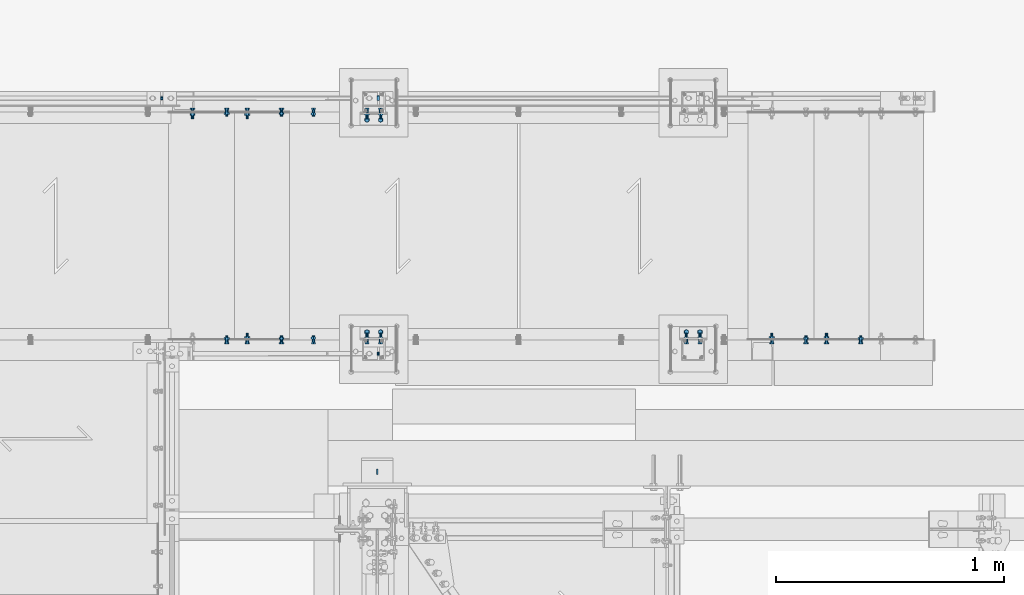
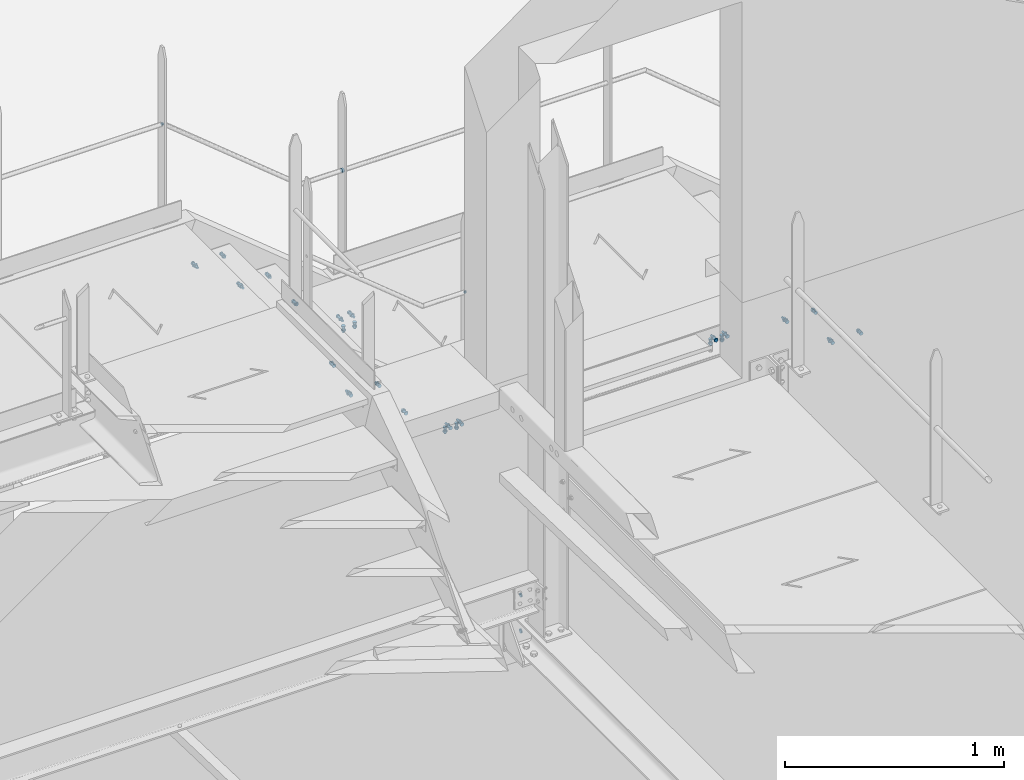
# One storey, part 303 of 362: 24 mechanical fasteners.
"""IFC2X3 building model written with IfcOpenShell, lengths in millimetres."""

from ifc_helpers import new_model, si_unit, frame, frame_2d, origin_with_axes, origin_2d_with_axis, place, context, subcontext, project, spatial, polyline, circle_curve, parameter, trimmed, segment, composite_curve, circle, outline, extrude, source, transform, mapped, material, type_object, element, save


model = new_model("IFC2X3")

# Units and contexts
model_context = context("Model", 3, precision=1e-05, world=origin_with_axes())
body_context = subcontext(model_context, "Body", "Model", "MODEL_VIEW")
ifc_project = project(units=[si_unit("LENGTHUNIT", "METRE", prefix="MILLI"), si_unit("AREAUNIT", "SQUARE_METRE"), si_unit("VOLUMEUNIT", "CUBIC_METRE"), si_unit("MASSUNIT", "GRAM", prefix="KILO"), si_unit("TIMEUNIT", "SECOND"), si_unit("PLANEANGLEUNIT", "RADIAN"), si_unit("SOLIDANGLEUNIT", "STERADIAN"), si_unit("THERMODYNAMICTEMPERATUREUNIT", "DEGREE_CELSIUS"), si_unit("LUMINOUSINTENSITYUNIT", "LUMEN")], contexts=[model_context])

# Site, building, storey
site_placement = place(None, origin_with_axes())
site = spatial("IfcSite", under=ifc_project, at=site_placement, Name="Undefined", CompositionType="ELEMENT")
building_placement = place(site_placement, origin_with_axes())
building = spatial("IfcBuilding", under=site, at=building_placement, Name="Undefined", CompositionType="ELEMENT")
storey_placement = place(building_placement, origin_with_axes())
storey = spatial("IfcBuildingStorey", under=building, at=storey_placement, Name="Undefined", CompositionType="ELEMENT", Elevation=0.0)

# Mechanical fasteners
ifc_material_1 = material(Name="6.8")
mechanical_fastener_type = type_object("IfcMechanicalFastenerType", Name="Bolt assembly")
shared_shape_1 = source(origin_with_axes(), body_context, "Body", "SweptSolid", [
    extrude(circle(Radius=11.0, at=origin_2d_with_axis()), frame((0.0, -5.00000000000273, 0.0), z_axis=(0.0, 1.0, 0.0), x_axis=(1.0, 0.0, 0.0)), (0.0, 0.0, 1.0), 10.1),
])
mechanical_fastener_1_placement = place(storey_placement, frame((23475.0061849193, 17089.9938659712, 8653.7999407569), z_axis=(0.0, 0.0, -1.0), x_axis=(0.0, -1.0, 0.0)))
element("IfcMechanicalFastener", 1, at=mechanical_fastener_1_placement, inside=storey, type_object=mechanical_fastener_type, material=ifc_material_1, Name="Bolt assembly", NominalDiameter=20.0, NominalLength=10.0, context=body_context, shape_type="MappedRepresentation", body=[
    mapped(shared_shape_1, transform((0.0, 0.0, 0.0))),
])
shared_shape_2 = source(origin_with_axes(), body_context, "Body", "SweptSolid", [
    extrude(circle(Radius=7.0, at=origin_2d_with_axis()), frame((0.0, -5.00000000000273, 0.0), z_axis=(0.0, 1.0, 0.0), x_axis=(1.0, 0.0, 0.0)), (0.0, 0.0, 1.0), 10.1),
])
for number, where, z_axis, x_axis, name in (
    (2, (23475.0061849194, 15970.0000882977, 8653.7999407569), (0.0, 0.0, 1.0), (0.0, 1.0, 0.0), "Bolt assembly"),
    (3, (22525.0061849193, 17089.9938659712, 9243.80000001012), (0.0, 0.0, -1.0), (0.0, -1.0, 0.0), "Bolt assembly"),
):
    element("IfcMechanicalFastener", number, at=place(storey_placement, frame(where, z_axis=z_axis, x_axis=x_axis)), inside=storey, type_object=mechanical_fastener_type, material=ifc_material_1, Name=name, NominalDiameter=12.0, NominalLength=10.0, context=body_context, shape_type="MappedRepresentation", body=[
        mapped(shared_shape_2, transform((0.0, 0.0, 0.0))),
    ])
ifc_material_2 = material(Name="8.8-SB-GALVA")
shared_shape_3 = source(origin_with_axes(), body_context, "Body", "SweptSolid", [
    extrude(circle(Radius=7.0, at=origin_2d_with_axis()), frame((0.0, -0.10007666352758, 0.0), z_axis=(0.0, 1.0, 0.0), x_axis=(1.0, 0.0, 0.0)), (0.0, 0.0, 1.0), 8.1),
    extrude(circle(Radius=7.0, at=origin_2d_with_axis()), frame((0.0, -5.8999542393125, 0.0), z_axis=(0.0, 1.0, 0.0), x_axis=(1.0, 0.0, 0.0)), (0.0, 0.0, 1.0), 6.0),
    extrude(outline(polyline([(10.39230484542, 0.0), (5.19615242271, 9.00000000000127), (-5.19615242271, 9.00000000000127), (-10.39230484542, 0.0), (-5.19615242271, -9.00000000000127), (5.19615242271, -9.00000000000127), (10.39230484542, 0.0)])), frame((0.0, -13.9199542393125, 0.0), z_axis=(0.0, 1.0, 0.0), x_axis=(1.0, 0.0, 0.0)), (0.0, 0.0, 1.0), 7.92),
    extrude(circle(Radius=6.0, at=origin_2d_with_axis()), frame((0.0, -5.9999542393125, 0.0), z_axis=(0.0, 1.0, 0.0), x_axis=(1.0, 0.0, 0.0)), (0.0, 0.0, 1.0), 30.0),
    extrude(outline(polyline([(11.5008173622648, 0.0), (5.7504086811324, 9.96000000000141), (-5.7504086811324, 9.96000000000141), (-11.5008173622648, 0.0), (-5.7504086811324, -9.96000000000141), (5.7504086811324, -9.96000000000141), (11.5008173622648, 0.0)])), frame((0.0, 7.99992914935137, 0.0), z_axis=(0.0, 1.0, 0.0), x_axis=(1.0, 0.0, 0.0)), (0.0, 0.0, 1.0), 7.92),
])
for number, where, z_axis, x_axis, name in (
    (4, (23455.0, 16065.0001225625, 7849.9999407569), (1.0, 0.0, 0.0), (0.0, -1.0, 0.0), "Bolt assembly"),
    (5, (24855.0, 16065.0001225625, 7849.9999407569), (1.0, 0.0, 0.0), (0.0, -1.0, 0.0), "Bolt assembly"),
):
    element("IfcMechanicalFastener", number, at=place(storey_placement, frame(where, z_axis=z_axis, x_axis=x_axis)), inside=storey, type_object=mechanical_fastener_type, material=ifc_material_2, Name=name, NominalDiameter=12.0, NominalLength=30.0, context=body_context, shape_type="MappedRepresentation", body=[
        mapped(shared_shape_3, transform((0.0, 0.0, 30.0))),
        mapped(shared_shape_3, transform((0.0, 0.0, -30.0))),
    ])
mechanical_fastener_2_placement = place(storey_placement, frame((23455.0, 16994.9998774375, 7849.9999407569), z_axis=(-1.0, 0.0, 0.0), x_axis=(0.0, 1.0, 0.0)))
element("IfcMechanicalFastener", 6, at=mechanical_fastener_2_placement, inside=storey, type_object=mechanical_fastener_type, material=ifc_material_2, Name="Bolt assembly", NominalDiameter=12.0, NominalLength=30.0, context=body_context, shape_type="MappedRepresentation", body=[
    mapped(shared_shape_3, transform((0.0, 0.0, -30.0))),
    mapped(shared_shape_3, transform((0.0, 0.0, 30.0))),
])
shared_shape_4 = source(origin_with_axes(), body_context, "Body", "SweptSolid", [
    extrude(circle(Radius=7.0, at=origin_2d_with_axis()), frame((0.0, -9.90024512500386, 0.0), z_axis=(0.0, 1.0, 0.0), x_axis=(1.0, 0.0, 0.0)), (0.0, 0.0, 1.0), 10.0),
    extrude(circle(Radius=7.0, at=origin_2d_with_axis()), frame((0.0, -0.100011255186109, 0.0), z_axis=(0.0, 1.0, 0.0), x_axis=(1.0, 0.0, 0.0)), (0.0, 0.0, 1.0), 6.1),
    extrude(outline(polyline([(10.39230484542, 0.0), (5.19615242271, 9.00000000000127), (-5.19615242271, 9.00000000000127), (-10.39230484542, 0.0), (-5.19615242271, -9.00000000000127), (5.19615242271, -9.00000000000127), (10.39230484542, 0.0)])), frame((0.0, -17.9202451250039, 0.0), z_axis=(0.0, 1.0, 0.0), x_axis=(1.0, 0.0, 0.0)), (0.0, 0.0, 1.0), 7.92),
    extrude(circle(Radius=6.0, at=origin_2d_with_axis()), frame((0.0, -10.0002451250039, 0.0), z_axis=(0.0, 1.0, 0.0), x_axis=(1.0, 0.0, 0.0)), (0.0, 0.0, 1.0), 40.0),
    extrude(outline(polyline([(11.5008173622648, 0.0), (5.7504086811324, 9.96000000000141), (-5.7504086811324, 9.96000000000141), (-11.5008173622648, 0.0), (-5.7504086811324, -9.96000000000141), (5.7504086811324, -9.96000000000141), (11.5008173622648, 0.0)])), frame((0.0, 6.0, 0.0), z_axis=(0.0, 1.0, 0.0), x_axis=(1.0, 0.0, 0.0)), (0.0, 0.0, 1.0), 7.92),
])
for number, where, z_axis, x_axis, name in (
    (7, (23455.0, 16030.0001225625, 7884.9999407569), (1.0, 0.0, 0.0), (0.0, 0.0, -1.0), "Bolt assembly"),
    (8, (24855.0, 16030.0001225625, 7884.9999407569), (1.0, 0.0, 0.0), (0.0, 0.0, -1.0), "Bolt assembly"),
):
    element("IfcMechanicalFastener", number, at=place(storey_placement, frame(where, z_axis=z_axis, x_axis=x_axis)), inside=storey, type_object=mechanical_fastener_type, material=ifc_material_2, Name=name, NominalDiameter=12.0, NominalLength=40.0, context=body_context, shape_type="MappedRepresentation", body=[
        mapped(shared_shape_4, transform((0.0, 0.0, 30.0))),
        mapped(shared_shape_4, transform((0.0, 0.0, -30.0))),
    ])
shared_shape_5 = source(origin_with_axes(), body_context, "Body", "SweptSolid", [
    extrude(circle(Radius=7.0, at=origin_2d_with_axis()), frame((0.0, -9.8963627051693, 0.0), z_axis=(0.0, 1.0, 0.0), x_axis=(1.0, 0.0, 0.0)), (0.0, 0.0, 1.0), 10.0),
    extrude(circle(Radius=7.0, at=origin_2d_with_axis()), frame((0.0, -0.100011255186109, 0.0), z_axis=(0.0, 1.0, 0.0), x_axis=(1.0, 0.0, 0.0)), (0.0, 0.0, 1.0), 3.1),
    extrude(outline(polyline([(10.39230484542, 0.0), (5.19615242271, 9.00000000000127), (-5.19615242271, 9.00000000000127), (-10.39230484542, 0.0), (-5.19615242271, -9.00000000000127), (5.19615242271, -9.00000000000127), (10.39230484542, 0.0)])), frame((0.0, -17.9163627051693, 0.0), z_axis=(0.0, 1.0, 0.0), x_axis=(1.0, 0.0, 0.0)), (0.0, 0.0, 1.0), 7.92),
    extrude(circle(Radius=6.0, at=origin_2d_with_axis()), frame((0.0, -9.9963627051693, 0.0), z_axis=(0.0, 1.0, 0.0), x_axis=(1.0, 0.0, 0.0)), (0.0, 0.0, 1.0), 30.0),
    extrude(outline(polyline([(11.5008173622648, 0.0), (5.7504086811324, 9.96000000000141), (-5.7504086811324, 9.96000000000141), (-11.5008173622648, 0.0), (-5.7504086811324, -9.96000000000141), (5.7504086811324, -9.96000000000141), (11.5008173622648, 0.0)])), frame((0.0, 3.00000067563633, 0.0), z_axis=(0.0, 1.0, 0.0), x_axis=(1.0, 0.0, 0.0)), (0.0, 0.0, 1.0), 7.92),
])
mechanical_fastener_3_placement = place(storey_placement, frame((22809.9999902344, 17030.0001225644, 8448.3299407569), z_axis=(0.0, 0.0, 1.0), x_axis=(-1.0, 0.0, 0.0)))
element("IfcMechanicalFastener", 9, at=mechanical_fastener_3_placement, inside=storey, type_object=mechanical_fastener_type, material=ifc_material_2, Name="Bolt assembly", NominalDiameter=12.0, NominalLength=30.0, context=body_context, shape_type="MappedRepresentation", body=[
    mapped(shared_shape_5, transform((0.0, 0.0, 0.0))),
])
shared_shape_6 = source(origin_with_axes(), body_context, "Body", "SweptSolid", [
    extrude(circle(Radius=7.0, at=origin_2d_with_axis()), frame((0.0, -9.9, 0.0), z_axis=(0.0, 1.0, 0.0), x_axis=(1.0, 0.0, 0.0)), (0.0, 0.0, 1.0), 10.0),
    extrude(circle(Radius=7.0, at=origin_2d_with_axis()), frame((0.0, -0.100011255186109, 0.0), z_axis=(0.0, 1.0, 0.0), x_axis=(1.0, 0.0, 0.0)), (0.0, 0.0, 1.0), 3.1),
    extrude(outline(polyline([(10.39230484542, 0.0), (5.19615242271, 9.00000000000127), (-5.19615242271, 9.00000000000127), (-10.39230484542, 0.0), (-5.19615242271, -9.00000000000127), (5.19615242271, -9.00000000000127), (10.39230484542, 0.0)])), frame((0.0, -17.92, 0.0), z_axis=(0.0, 1.0, 0.0), x_axis=(1.0, 0.0, 0.0)), (0.0, 0.0, 1.0), 7.92),
    extrude(circle(Radius=6.0, at=origin_2d_with_axis()), frame((0.0, -10.0000010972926, 0.0), z_axis=(0.0, 1.0, 0.0), x_axis=(1.0, 0.0, 0.0)), (0.0, 0.0, 1.0), 30.0),
    extrude(outline(polyline([(11.5008173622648, 0.0), (5.7504086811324, 9.96000000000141), (-5.7504086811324, 9.96000000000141), (-11.5008173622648, 0.0), (-5.7504086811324, -9.96000000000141), (5.7504086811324, -9.96000000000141), (11.5008173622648, 0.0)])), frame((0.0, 3.00000067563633, 0.0), z_axis=(0.0, 1.0, 0.0), x_axis=(1.0, 0.0, 0.0)), (0.0, 0.0, 1.0), 7.92),
])
for number, where, z_axis, x_axis, name in (
    (10, (22809.9999902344, 16029.9998774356, 8448.3299407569), (0.0, 0.0, -1.0), (-1.0, 0.0, 0.0), "Bolt assembly"),
    (11, (23049.9999902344, 16029.9998774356, 8251.6699407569), (0.0, 0.0, -1.0), (-1.0, 0.0, 0.0), "Bolt assembly"),
    (12, (25349.9999902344, 16029.9998774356, 7854.9999407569), (0.0, 0.0, -1.0), (-1.0, 0.0, 0.0), "Bolt assembly"),
    (13, (25589.9999902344, 16029.9998774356, 7655.0), (0.0, 0.0, -1.0), (-1.0, 0.0, 0.0), "Bolt assembly"),
):
    element("IfcMechanicalFastener", number, at=place(storey_placement, frame(where, z_axis=z_axis, x_axis=x_axis)), inside=storey, type_object=mechanical_fastener_type, material=ifc_material_2, Name=name, NominalDiameter=12.0, NominalLength=30.0, context=body_context, shape_type="MappedRepresentation", body=[
        mapped(shared_shape_6, transform((0.0, 0.0, 0.0))),
    ])
shared_shape_7 = source(origin_with_axes(), body_context, "Body", "SweptSolid", [
    extrude(circle(Radius=7.0, at=origin_2d_with_axis()), frame((0.0, -9.89685977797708, 0.0), z_axis=(0.0, 1.0, 0.0), x_axis=(1.0, 0.0, 0.0)), (0.0, 0.0, 1.0), 10.0),
    extrude(circle(Radius=7.0, at=origin_2d_with_axis()), frame((0.0, -0.100011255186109, 0.0), z_axis=(0.0, 1.0, 0.0), x_axis=(1.0, 0.0, 0.0)), (0.0, 0.0, 1.0), 3.1),
    extrude(outline(polyline([(10.39230484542, 0.0), (5.19615242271, 9.00000000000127), (-5.19615242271, 9.00000000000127), (-10.39230484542, 0.0), (-5.19615242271, -9.00000000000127), (5.19615242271, -9.00000000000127), (10.39230484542, 0.0)])), frame((0.0, -17.9168597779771, 0.0), z_axis=(0.0, 1.0, 0.0), x_axis=(1.0, 0.0, 0.0)), (0.0, 0.0, 1.0), 7.92),
    extrude(circle(Radius=6.0, at=origin_2d_with_axis()), frame((0.0, -9.99685977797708, 0.0), z_axis=(0.0, 1.0, 0.0), x_axis=(1.0, 0.0, 0.0)), (0.0, 0.0, 1.0), 30.0),
    extrude(outline(polyline([(11.5008173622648, 0.0), (5.7504086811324, 9.96000000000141), (-5.7504086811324, 9.96000000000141), (-11.5008173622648, 0.0), (-5.7504086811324, -9.96000000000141), (5.7504086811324, -9.96000000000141), (11.5008173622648, 0.0)])), frame((0.0, 3.00000067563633, 0.0), z_axis=(0.0, 1.0, 0.0), x_axis=(1.0, 0.0, 0.0)), (0.0, 0.0, 1.0), 7.92),
])
mechanical_fastener_4_placement = place(storey_placement, frame((23049.9999902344, 17030.0001225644, 8251.6699407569), z_axis=(0.0, 0.0, 1.0), x_axis=(-1.0, 0.0, 0.0)))
element("IfcMechanicalFastener", 14, at=mechanical_fastener_4_placement, inside=storey, type_object=mechanical_fastener_type, material=ifc_material_2, Name="Bolt assembly", NominalDiameter=12.0, NominalLength=30.0, context=body_context, shape_type="MappedRepresentation", body=[
    mapped(shared_shape_7, transform((0.0, 0.0, 0.0))),
])
shared_shape_8 = source(origin_with_axes(), body_context, "Body", "SweptSolid", [
    extrude(circle(Radius=7.0, at=origin_2d_with_axis()), frame((0.0, -9.89792082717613, 0.0), z_axis=(0.0, 1.0, 0.0), x_axis=(1.0, 0.0, 0.0)), (0.0, 0.0, 1.0), 10.0),
    extrude(circle(Radius=7.0, at=origin_2d_with_axis()), frame((0.0, -0.100011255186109, 0.0), z_axis=(0.0, 1.0, 0.0), x_axis=(1.0, 0.0, 0.0)), (0.0, 0.0, 1.0), 6.1),
    extrude(outline(polyline([(10.39230484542, 0.0), (5.19615242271, 9.00000000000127), (-5.19615242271, 9.00000000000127), (-10.39230484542, 0.0), (-5.19615242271, -9.00000000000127), (5.19615242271, -9.00000000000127), (10.39230484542, 0.0)])), frame((0.0, -17.9179208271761, 0.0), z_axis=(0.0, 1.0, 0.0), x_axis=(1.0, 0.0, 0.0)), (0.0, 0.0, 1.0), 7.92),
    extrude(circle(Radius=6.0, at=origin_2d_with_axis()), frame((0.0, -9.99792082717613, 0.0), z_axis=(0.0, 1.0, 0.0), x_axis=(1.0, 0.0, 0.0)), (0.0, 0.0, 1.0), 40.0),
    extrude(outline(polyline([(11.5008173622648, 0.0), (5.7504086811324, 9.96000000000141), (-5.7504086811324, 9.96000000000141), (-11.5008173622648, 0.0), (-5.7504086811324, -9.96000000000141), (5.7504086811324, -9.96000000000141), (11.5008173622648, 0.0)])), frame((0.0, 6.0, 0.0), z_axis=(0.0, 1.0, 0.0), x_axis=(1.0, 0.0, 0.0)), (0.0, 0.0, 1.0), 7.92),
])
mechanical_fastener_5_placement = place(storey_placement, frame((23455.0, 17029.9998774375, 7884.9999407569), z_axis=(-1.0, 0.0, 0.0), x_axis=(0.0, 0.0, -1.0)))
element("IfcMechanicalFastener", 15, at=mechanical_fastener_5_placement, inside=storey, type_object=mechanical_fastener_type, material=ifc_material_2, Name="Bolt assembly", NominalDiameter=12.0, NominalLength=40.0, context=body_context, shape_type="MappedRepresentation", body=[
    mapped(shared_shape_8, transform((0.0, 0.0, -30.0))),
    mapped(shared_shape_8, transform((0.0, 0.0, 30.0))),
])
shared_shape_9 = source(origin_with_axes(), body_context, "Body", "SweptSolid", [
    extrude(circle(Radius=7.0, at=origin_2d_with_axis()), frame((0.0, -9.89714953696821, 0.0), z_axis=(0.0, 1.0, 0.0), x_axis=(1.0, 0.0, 0.0)), (0.0, 0.0, 1.0), 10.0),
    extrude(circle(Radius=7.0, at=origin_2d_with_axis()), frame((0.0, -0.100011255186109, 0.0), z_axis=(0.0, 1.0, 0.0), x_axis=(1.0, 0.0, 0.0)), (0.0, 0.0, 1.0), 5.1),
    extrude(outline(polyline([(10.39230484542, 0.0), (5.19615242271, 9.00000000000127), (-5.19615242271, 9.00000000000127), (-10.39230484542, 0.0), (-5.19615242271, -9.00000000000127), (5.19615242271, -9.00000000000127), (10.39230484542, 0.0)])), frame((0.0, -17.9171495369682, 0.0), z_axis=(0.0, 1.0, 0.0), x_axis=(1.0, 0.0, 0.0)), (0.0, 0.0, 1.0), 7.92),
    extrude(circle(Radius=6.0, at=origin_2d_with_axis()), frame((0.0, -9.99714953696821, 0.0), z_axis=(0.0, 1.0, 0.0), x_axis=(1.0, 0.0, 0.0)), (0.0, 0.0, 1.0), 30.0),
    extrude(outline(polyline([(11.5008173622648, 0.0), (5.7504086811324, 9.96000000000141), (-5.7504086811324, 9.96000000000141), (-11.5008173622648, 0.0), (-5.7504086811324, -9.96000000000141), (5.7504086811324, -9.96000000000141), (11.5008173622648, 0.0)])), frame((0.0, 5.0, 0.0), z_axis=(0.0, 1.0, 0.0), x_axis=(1.0, 0.0, 0.0)), (0.0, 0.0, 1.0), 7.92),
])
mechanical_fastener_6_placement = place(storey_placement, frame((23189.9999902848, 17030.0001227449, 8049.9999407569), z_axis=(1.0, 0.0, 0.0), x_axis=(0.0, 0.0, 1.0)))
element("IfcMechanicalFastener", 16, at=mechanical_fastener_6_placement, inside=storey, type_object=mechanical_fastener_type, material=ifc_material_2, Name="Bolt assembly", NominalDiameter=12.0, NominalLength=30.0, context=body_context, shape_type="MappedRepresentation", body=[
    mapped(shared_shape_9, transform((0.0, 0.0, 0.0))),
])
shared_shape_10 = source(origin_with_axes(), body_context, "Body", "SweptSolid", [
    extrude(circle(Radius=7.0, at=origin_2d_with_axis()), frame((0.0, -9.9, 0.0), z_axis=(0.0, 1.0, 0.0), x_axis=(1.0, 0.0, 0.0)), (0.0, 0.0, 1.0), 10.0),
    extrude(circle(Radius=7.0, at=origin_2d_with_axis()), frame((0.0, -0.100011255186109, 0.0), z_axis=(0.0, 1.0, 0.0), x_axis=(1.0, 0.0, 0.0)), (0.0, 0.0, 1.0), 5.1),
    extrude(outline(polyline([(10.39230484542, 0.0), (5.19615242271, 9.00000000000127), (-5.19615242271, 9.00000000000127), (-10.39230484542, 0.0), (-5.19615242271, -9.00000000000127), (5.19615242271, -9.00000000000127), (10.39230484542, 0.0)])), frame((0.0, -17.92, 0.0), z_axis=(0.0, 1.0, 0.0), x_axis=(1.0, 0.0, 0.0)), (0.0, 0.0, 1.0), 7.92),
    extrude(circle(Radius=6.0, at=origin_2d_with_axis()), frame((0.0, -10.0000010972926, 0.0), z_axis=(0.0, 1.0, 0.0), x_axis=(1.0, 0.0, 0.0)), (0.0, 0.0, 1.0), 30.0),
    extrude(outline(polyline([(11.5008173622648, 0.0), (5.7504086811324, 9.96000000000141), (-5.7504086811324, 9.96000000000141), (-11.5008173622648, 0.0), (-5.7504086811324, -9.96000000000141), (5.7504086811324, -9.96000000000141), (11.5008173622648, 0.0)])), frame((0.0, 5.0, 0.0), z_axis=(0.0, 1.0, 0.0), x_axis=(1.0, 0.0, 0.0)), (0.0, 0.0, 1.0), 7.92),
])
mechanical_fastener_7_placement = place(storey_placement, frame((23189.9999902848, 16029.9998772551, 8049.9999407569), z_axis=(-1.0, 0.0, 0.0), x_axis=(0.0, 0.0, 1.0)))
element("IfcMechanicalFastener", 17, at=mechanical_fastener_7_placement, inside=storey, type_object=mechanical_fastener_type, material=ifc_material_2, Name="Bolt assembly", NominalDiameter=12.0, NominalLength=30.0, context=body_context, shape_type="MappedRepresentation", body=[
    mapped(shared_shape_10, transform((0.0, 0.0, 0.0))),
])
shared_shape_11 = source(origin_with_axes(), body_context, "Body", "SweptSolid", [
    extrude(circle(Radius=7.0, at=origin_2d_with_axis()), frame((0.0, -9.89603460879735, 0.0), z_axis=(0.0, 1.0, 0.0), x_axis=(1.0, 0.0, 0.0)), (0.0, 0.0, 1.0), 10.0),
    extrude(outline(composite_curve([segment(polyline([(-7.0, 7.0), (7.0, 7.0)]), True, "CONTINUOUS"), segment(trimmed(circle_curve(frame_2d((7.0, 0.0), x_axis=(0.0, 1.0)), 7.0), [parameter(0.0)], [parameter(3.14159265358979)], False, "PARAMETER"), True, "CONTINUOUS"), segment(polyline([(7.0, -7.0), (-7.0, -7.0)]), True, "CONTINUOUS"), segment(trimmed(circle_curve(frame_2d((-7.0, 0.0), x_axis=(0.0, -1.0)), 7.0), [parameter(0.0)], [parameter(3.14159265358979)], False, "PARAMETER"), True, "DISCONTINUOUS")], self_intersect=False)), frame((0.0, -0.100011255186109, 0.0), z_axis=(0.0, 1.0, 0.0), x_axis=(1.0, 0.0, 0.0)), (0.0, 0.0, 1.0), 3.1),
    extrude(outline(polyline([(10.39230484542, 0.0), (5.19615242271, 9.00000000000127), (-5.19615242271, 9.00000000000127), (-10.39230484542, 0.0), (-5.19615242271, -9.00000000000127), (5.19615242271, -9.00000000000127), (10.39230484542, 0.0)])), frame((0.0, -17.9160346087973, 0.0), z_axis=(0.0, 1.0, 0.0), x_axis=(1.0, 0.0, 0.0)), (0.0, 0.0, 1.0), 7.92),
    extrude(circle(Radius=6.0, at=origin_2d_with_axis()), frame((0.0, -9.99603460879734, 0.0), z_axis=(0.0, 1.0, 0.0), x_axis=(1.0, 0.0, 0.0)), (0.0, 0.0, 1.0), 40.0),
    extrude(circle(Radius=10.8, at=origin_2d_with_axis()), frame((0.0, 3.00000067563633, 0.0), z_axis=(0.0, 1.0, 0.0), x_axis=(1.0, 0.0, 0.0)), (0.0, 0.0, 1.0), 3.96),
    extrude(outline(polyline([(11.5008173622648, 0.0), (5.7504086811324, 9.96000000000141), (-5.7504086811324, 9.96000000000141), (-11.5008173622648, 0.0), (-5.7504086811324, -9.96000000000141), (5.7504086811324, -9.96000000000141), (11.5008173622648, 0.0)])), frame((0.0, 6.96, 0.0), z_axis=(0.0, 1.0, 0.0), x_axis=(1.0, 0.0, 0.0)), (0.0, 0.0, 1.0), 7.92),
])
mechanical_fastener_8_placement = place(storey_placement, frame((22659.9999902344, 17030.0001225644, 8448.3299407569), z_axis=(0.0, 0.0, 1.0), x_axis=(-1.0, 0.0, 0.0)))
element("IfcMechanicalFastener", 18, at=mechanical_fastener_8_placement, inside=storey, type_object=mechanical_fastener_type, material=ifc_material_2, Name="Bolt assembly", NominalDiameter=12.0, NominalLength=40.0, context=body_context, shape_type="MappedRepresentation", body=[
    mapped(shared_shape_11, transform((0.0, 0.0, 0.0))),
])
shared_shape_12 = source(origin_with_axes(), body_context, "Body", "SweptSolid", [
    extrude(circle(Radius=7.0, at=origin_2d_with_axis()), frame((0.0, -9.896549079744, 0.0), z_axis=(0.0, 1.0, 0.0), x_axis=(1.0, 0.0, 0.0)), (0.0, 0.0, 1.0), 10.0),
    extrude(outline(composite_curve([segment(polyline([(-7.0, 7.0), (7.0, 7.0)]), True, "CONTINUOUS"), segment(trimmed(circle_curve(frame_2d((7.0, 0.0), x_axis=(0.0, 1.0)), 7.0), [parameter(0.0)], [parameter(3.14159265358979)], False, "PARAMETER"), True, "CONTINUOUS"), segment(polyline([(7.0, -7.0), (-7.0, -7.0)]), True, "CONTINUOUS"), segment(trimmed(circle_curve(frame_2d((-7.0, 0.0), x_axis=(0.0, -1.0)), 7.0), [parameter(0.0)], [parameter(3.14159265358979)], False, "PARAMETER"), True, "DISCONTINUOUS")], self_intersect=False)), frame((0.0, -0.100011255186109, 0.0), z_axis=(0.0, 1.0, 0.0), x_axis=(1.0, 0.0, 0.0)), (0.0, 0.0, 1.0), 3.1),
    extrude(outline(polyline([(10.39230484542, 0.0), (5.19615242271, 9.00000000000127), (-5.19615242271, 9.00000000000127), (-10.39230484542, 0.0), (-5.19615242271, -9.00000000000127), (5.19615242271, -9.00000000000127), (10.39230484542, 0.0)])), frame((0.0, -17.916549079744, 0.0), z_axis=(0.0, 1.0, 0.0), x_axis=(1.0, 0.0, 0.0)), (0.0, 0.0, 1.0), 7.92),
    extrude(circle(Radius=6.0, at=origin_2d_with_axis()), frame((0.0, -9.996549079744, 0.0), z_axis=(0.0, 1.0, 0.0), x_axis=(1.0, 0.0, 0.0)), (0.0, 0.0, 1.0), 40.0),
    extrude(circle(Radius=10.8, at=origin_2d_with_axis()), frame((0.0, 3.00000067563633, 0.0), z_axis=(0.0, 1.0, 0.0), x_axis=(1.0, 0.0, 0.0)), (0.0, 0.0, 1.0), 3.96),
    extrude(outline(polyline([(11.5008173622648, 0.0), (5.7504086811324, 9.96000000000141), (-5.7504086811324, 9.96000000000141), (-11.5008173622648, 0.0), (-5.7504086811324, -9.96000000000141), (5.7504086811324, -9.96000000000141), (11.5008173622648, 0.0)])), frame((0.0, 6.96, 0.0), z_axis=(0.0, 1.0, 0.0), x_axis=(1.0, 0.0, 0.0)), (0.0, 0.0, 1.0), 7.92),
])
mechanical_fastener_9_placement = place(storey_placement, frame((22899.9999902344, 17030.0001225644, 8251.6699407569), z_axis=(0.0, 0.0, 1.0), x_axis=(-1.0, 0.0, 0.0)))
element("IfcMechanicalFastener", 19, at=mechanical_fastener_9_placement, inside=storey, type_object=mechanical_fastener_type, material=ifc_material_2, Name="Bolt assembly", NominalDiameter=12.0, NominalLength=40.0, context=body_context, shape_type="MappedRepresentation", body=[
    mapped(shared_shape_12, transform((0.0, 0.0, 0.0))),
])
shared_shape_13 = source(origin_with_axes(), body_context, "Body", "SweptSolid", [
    extrude(circle(Radius=7.0, at=origin_2d_with_axis()), frame((0.0, -9.9, 0.0), z_axis=(0.0, 1.0, 0.0), x_axis=(1.0, 0.0, 0.0)), (0.0, 0.0, 1.0), 10.0),
    extrude(outline(composite_curve([segment(polyline([(-7.0, 7.0), (7.0, 7.0)]), True, "CONTINUOUS"), segment(trimmed(circle_curve(frame_2d((7.0, 0.0), x_axis=(0.0, 1.0)), 7.0), [parameter(0.0)], [parameter(3.14159265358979)], False, "PARAMETER"), True, "CONTINUOUS"), segment(polyline([(7.0, -7.0), (-7.0, -7.0)]), True, "CONTINUOUS"), segment(trimmed(circle_curve(frame_2d((-7.0, 0.0), x_axis=(0.0, -1.0)), 7.0), [parameter(0.0)], [parameter(3.14159265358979)], False, "PARAMETER"), True, "DISCONTINUOUS")], self_intersect=False)), frame((0.0, -0.100011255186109, 0.0), z_axis=(0.0, 1.0, 0.0), x_axis=(1.0, 0.0, 0.0)), (0.0, 0.0, 1.0), 3.1),
    extrude(outline(polyline([(10.39230484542, 0.0), (5.19615242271, 9.00000000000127), (-5.19615242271, 9.00000000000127), (-10.39230484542, 0.0), (-5.19615242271, -9.00000000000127), (5.19615242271, -9.00000000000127), (10.39230484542, 0.0)])), frame((0.0, -17.92, 0.0), z_axis=(0.0, 1.0, 0.0), x_axis=(1.0, 0.0, 0.0)), (0.0, 0.0, 1.0), 7.92),
    extrude(circle(Radius=6.0, at=origin_2d_with_axis()), frame((0.0, -10.0000010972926, 0.0), z_axis=(0.0, 1.0, 0.0), x_axis=(1.0, 0.0, 0.0)), (0.0, 0.0, 1.0), 40.0),
    extrude(circle(Radius=10.8, at=origin_2d_with_axis()), frame((0.0, 3.00000067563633, 0.0), z_axis=(0.0, 1.0, 0.0), x_axis=(1.0, 0.0, 0.0)), (0.0, 0.0, 1.0), 3.96),
    extrude(outline(polyline([(11.5008173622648, 0.0), (5.7504086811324, 9.96000000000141), (-5.7504086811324, 9.96000000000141), (-11.5008173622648, 0.0), (-5.7504086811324, -9.96000000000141), (5.7504086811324, -9.96000000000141), (11.5008173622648, 0.0)])), frame((0.0, 6.96, 0.0), z_axis=(0.0, 1.0, 0.0), x_axis=(1.0, 0.0, 0.0)), (0.0, 0.0, 1.0), 7.92),
])
mechanical_fastener_10_placement = place(storey_placement, frame((22899.9999902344, 16029.9998774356, 8251.6699407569), z_axis=(0.0, 0.0, -1.0), x_axis=(-1.0, 0.0, 0.0)))
element("IfcMechanicalFastener", 20, at=mechanical_fastener_10_placement, inside=storey, type_object=mechanical_fastener_type, material=ifc_material_2, Name="Bolt assembly", NominalDiameter=12.0, NominalLength=40.0, context=body_context, shape_type="MappedRepresentation", body=[
    mapped(shared_shape_13, transform((0.0, 0.0, 0.0))),
])
shared_shape_14 = source(origin_with_axes(), body_context, "Body", "SweptSolid", [
    extrude(circle(Radius=7.0, at=origin_2d_with_axis()), frame((0.0, -9.9, 0.0), z_axis=(0.0, 1.0, 0.0), x_axis=(1.0, 0.0, 0.0)), (0.0, 0.0, 1.0), 10.0),
    extrude(outline(composite_curve([segment(polyline([(-7.0, 7.0), (7.0, 7.0)]), True, "CONTINUOUS"), segment(trimmed(circle_curve(frame_2d((7.0, 0.0), x_axis=(0.0, 1.0)), 7.0), [parameter(0.0)], [parameter(3.14159265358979)], False, "PARAMETER"), True, "CONTINUOUS"), segment(polyline([(7.0, -7.0), (-7.0, -7.0)]), True, "CONTINUOUS"), segment(trimmed(circle_curve(frame_2d((-7.0, 0.0), x_axis=(0.0, -1.0)), 7.0), [parameter(0.0)], [parameter(3.14159265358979)], False, "PARAMETER"), True, "DISCONTINUOUS")], self_intersect=False)), frame((0.0, -0.100011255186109, 0.0), z_axis=(0.0, 1.0, 0.0), x_axis=(1.0, 0.0, 0.0)), (0.0, 0.0, 1.0), 3.1),
    extrude(outline(polyline([(10.39230484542, 0.0), (5.19615242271, 9.00000000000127), (-5.19615242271, 9.00000000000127), (-10.39230484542, 0.0), (-5.19615242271, -9.00000000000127), (5.19615242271, -9.00000000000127), (10.39230484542, 0.0)])), frame((0.0, -17.92, 0.0), z_axis=(0.0, 1.0, 0.0), x_axis=(1.0, 0.0, 0.0)), (0.0, 0.0, 1.0), 7.92),
    extrude(circle(Radius=6.0, at=origin_2d_with_axis()), frame((0.0, -10.0000010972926, 0.0), z_axis=(0.0, 1.0, 0.0), x_axis=(1.0, 0.0, 0.0)), (0.0, 0.0, 1.0), 40.0),
    extrude(circle(Radius=10.8, at=origin_2d_with_axis()), frame((0.0, 3.00000067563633, 0.0), z_axis=(0.0, 1.0, 0.0), x_axis=(1.0, 0.0, 0.0)), (0.0, 0.0, 1.0), 3.96),
    extrude(outline(polyline([(11.5008173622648, 0.0), (5.7504086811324, 9.96000000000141), (-5.7504086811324, 9.96000000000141), (-11.5008173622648, 0.0), (-5.7504086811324, -9.96000000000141), (5.7504086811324, -9.96000000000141), (11.5008173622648, 0.0)])), frame((0.0, 6.96, 0.0), z_axis=(0.0, 1.0, 0.0), x_axis=(1.0, 0.0, 0.0)), (0.0, 0.0, 1.0), 7.92),
])
mechanical_fastener_11_placement = place(storey_placement, frame((25199.9999902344, 16029.9998774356, 7854.9999407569), z_axis=(0.0, 0.0, -1.0), x_axis=(-1.0, 0.0, 0.0)))
element("IfcMechanicalFastener", 21, at=mechanical_fastener_11_placement, inside=storey, type_object=mechanical_fastener_type, material=ifc_material_2, Name="Bolt assembly", NominalDiameter=12.0, NominalLength=40.0, context=body_context, shape_type="MappedRepresentation", body=[
    mapped(shared_shape_14, transform((0.0, 0.0, 0.0))),
])
shared_shape_15 = source(origin_with_axes(), body_context, "Body", "SweptSolid", [
    extrude(circle(Radius=7.0, at=origin_2d_with_axis()), frame((0.0, -9.9, 0.0), z_axis=(0.0, 1.0, 0.0), x_axis=(1.0, 0.0, 0.0)), (0.0, 0.0, 1.0), 10.0),
    extrude(outline(composite_curve([segment(polyline([(-7.0, 7.0), (7.0, 7.0)]), True, "CONTINUOUS"), segment(trimmed(circle_curve(frame_2d((7.0, 0.0), x_axis=(0.0, 1.0)), 7.0), [parameter(0.0)], [parameter(3.14159265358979)], False, "PARAMETER"), True, "CONTINUOUS"), segment(polyline([(7.0, -7.0), (-7.0, -7.0)]), True, "CONTINUOUS"), segment(trimmed(circle_curve(frame_2d((-7.0, 0.0), x_axis=(0.0, -1.0)), 7.0), [parameter(0.0)], [parameter(3.14159265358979)], False, "PARAMETER"), True, "DISCONTINUOUS")], self_intersect=False)), frame((0.0, -0.100011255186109, 0.0), z_axis=(0.0, 1.0, 0.0), x_axis=(1.0, 0.0, 0.0)), (0.0, 0.0, 1.0), 3.1),
    extrude(outline(polyline([(10.39230484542, 0.0), (5.19615242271, 9.00000000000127), (-5.19615242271, 9.00000000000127), (-10.39230484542, 0.0), (-5.19615242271, -9.00000000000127), (5.19615242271, -9.00000000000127), (10.39230484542, 0.0)])), frame((0.0, -17.92, 0.0), z_axis=(0.0, 1.0, 0.0), x_axis=(1.0, 0.0, 0.0)), (0.0, 0.0, 1.0), 7.92),
    extrude(circle(Radius=6.0, at=origin_2d_with_axis()), frame((0.0, -10.0000010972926, 0.0), z_axis=(0.0, 1.0, 0.0), x_axis=(1.0, 0.0, 0.0)), (0.0, 0.0, 1.0), 40.0),
    extrude(circle(Radius=10.8, at=origin_2d_with_axis()), frame((0.0, 3.00000067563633, 0.0), z_axis=(0.0, 1.0, 0.0), x_axis=(1.0, 0.0, 0.0)), (0.0, 0.0, 1.0), 3.96),
    extrude(outline(polyline([(11.5008173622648, 0.0), (5.7504086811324, 9.96000000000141), (-5.7504086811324, 9.96000000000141), (-11.5008173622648, 0.0), (-5.7504086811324, -9.96000000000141), (5.7504086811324, -9.96000000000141), (11.5008173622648, 0.0)])), frame((0.0, 6.96, 0.0), z_axis=(0.0, 1.0, 0.0), x_axis=(1.0, 0.0, 0.0)), (0.0, 0.0, 1.0), 7.92),
])
mechanical_fastener_12_placement = place(storey_placement, frame((25439.9999902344, 16029.9998774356, 7655.0), z_axis=(0.0, 0.0, -1.0), x_axis=(-1.0, 0.0, 0.0)))
element("IfcMechanicalFastener", 22, at=mechanical_fastener_12_placement, inside=storey, type_object=mechanical_fastener_type, material=ifc_material_2, Name="Bolt assembly", NominalDiameter=12.0, NominalLength=40.0, context=body_context, shape_type="MappedRepresentation", body=[
    mapped(shared_shape_15, transform((0.0, 0.0, 0.0))),
])
shared_shape_16 = source(origin_with_axes(), body_context, "Body", "SweptSolid", [
    extrude(circle(Radius=11.0, at=origin_2d_with_axis()), frame((0.0, -2.74999998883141, 0.0), z_axis=(0.0, 1.0, 0.0), x_axis=(1.0, 0.0, 0.0)), (0.0, 0.0, 1.0), 5.6),
])
for number, where, z_axis, x_axis, name in (
    (23, (23470.0000000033, 15451.99999998, 7079.99830350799), (0.0, 0.0, 1.0), (0.0, -1.0, 0.0), "Bolt assembly"),
    (24, (23470.0000000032, 15451.9999999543, 7279.99830350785), (0.0, 0.0, 1.0), (0.0, -1.0, 0.0), "Bolt assembly"),
):
    element("IfcMechanicalFastener", number, at=place(storey_placement, frame(where, z_axis=z_axis, x_axis=x_axis)), inside=storey, type_object=mechanical_fastener_type, material=ifc_material_1, Name=name, NominalDiameter=20.0, NominalLength=5.5, context=body_context, shape_type="MappedRepresentation", body=[
        mapped(shared_shape_16, transform((0.0, 0.0, 0.0))),
    ])

save(model, "model.ifc")
